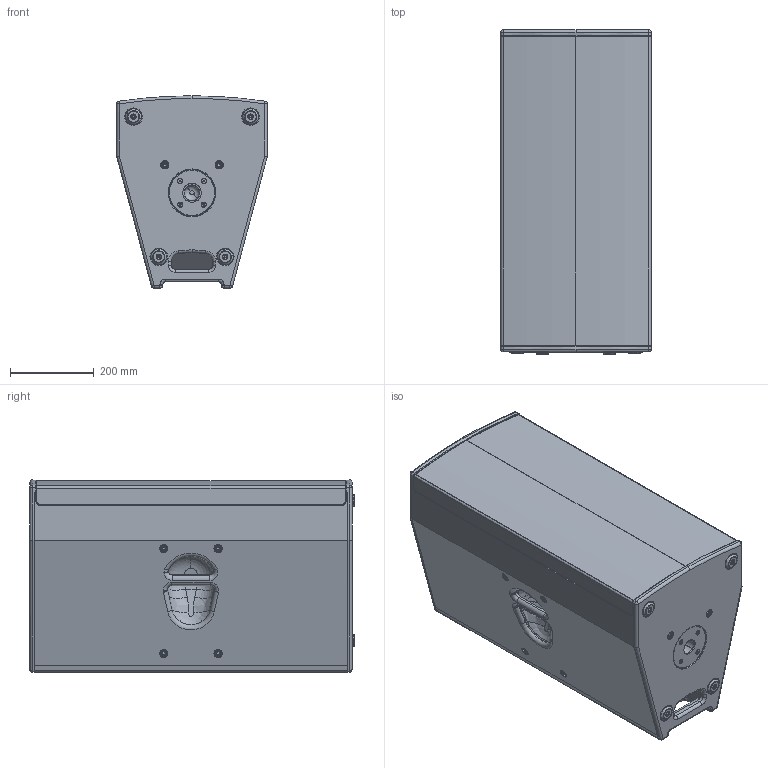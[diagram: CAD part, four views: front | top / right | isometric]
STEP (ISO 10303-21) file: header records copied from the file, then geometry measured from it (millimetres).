
FILE_DESCRIPTION (( 'STEP AP214' ), '1' );
FILE_NAME ('SEEBURG_K30.STEP', '2026-06-25T10:41:57', ( '' ), ( '' ), 'SwSTEP 2.0', 'SolidWorks 2023', '' );
FILE_SCHEMA (( 'AUTOMOTIVE_DESIGN' ));
Length unit declared in the file: millimetre
Products named in the file (18): K30 Gitter BLANK; K30 Seite Kurz; K30 Seite Lang Rechts; Seeburg EPDM Foot 38x10; K30 Deckel; K30 Rückwandleiste; K30 Seite Lang Links; socket countersunk head screw_iso_ISO 10642 - M6 x 16 --- 16N; M10-Flansch_doppelt_multirigg; M10_flansch_assym_neu_Gewinde; Griffdeckel Aero Tropfen; ASF K20xov; K30 Boden; ASF K20xov komplett; K30 Griffverkleidung; SEEBURG_K30; K30 Rückwand; Euromet Top Hat 35mm x 110mm
Assembly tree (32 placements, depth 3):
  SEEBURG_K30
    K30 Boden
    K30 Deckel
    K30 Rückwand
    K30 Seite Lang Links
    K30 Seite Lang Rechts
    K30 Seite Kurz  x2
    K30 Rückwandleiste  x2
    K30 Griffverkleidung  x2
    Griffdeckel Aero Tropfen  x2
    Seeburg EPDM Foot 38x10  x4
    M10_flansch_assym_neu_Gewinde  x2
    M10-Flansch_doppelt_multirigg  x5
    Euromet Top Hat 35mm x 110mm
    ASF K20xov komplett
      ASF K20xov
    socket countersunk head screw_iso_ISO 10642 - M6 x 16 --- 16N  x4
    K30 Gitter BLANK
Bounding box: 360 x 775 x 460 mm (x, y, z)
Volume: 15611411.8 mm3; surface area: 3373982.8 mm2
Topology: 63 solids, 63 shells, 1446 faces, 3352 edges, 1970 vertices
Faces by surface type: cylinder 609, plane 362, cone 312, torus 113, bspline 30, sphere 20
Entity records: 24947 total; most frequent: CARTESIAN_POINT 5044, DIRECTION 4382, ORIENTED_EDGE 3742, EDGE_CURVE 1871, AXIS2_PLACEMENT_3D 1728, VERTEX_POINT 1118, VECTOR 926, LINE 926
